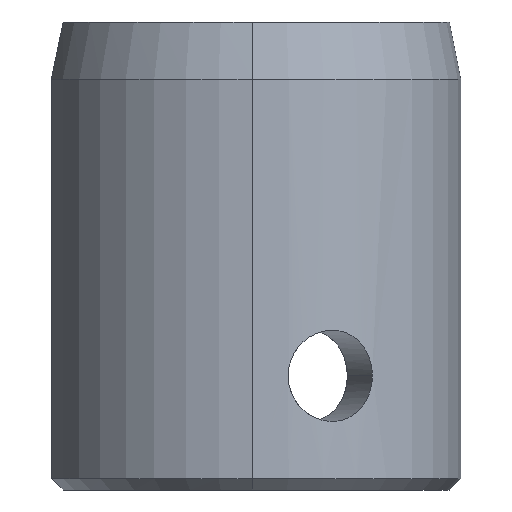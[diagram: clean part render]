
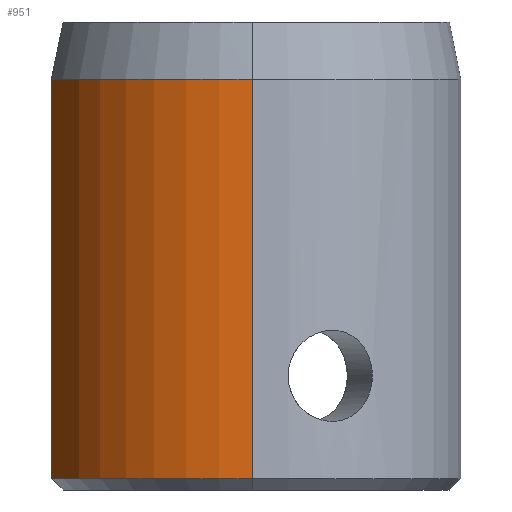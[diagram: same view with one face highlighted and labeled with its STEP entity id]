
A CAD part, left-side view. The second image highlights one B-rep face of the part: STEP entity #951.
In plain terms, the highlighted cylindrical face has radius 18.255 mm (diameter 36.51 mm), a partial arc.
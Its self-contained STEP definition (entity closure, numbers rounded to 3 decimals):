
#43 = CARTESIAN_POINT ( 'NONE',  ( 0., 0., -19.5 ) ) ;
#51 = EDGE_CURVE ( 'NONE', #225, #891, #468, .T. ) ;
#66 = DIRECTION ( 'NONE',  ( 0., 0., -1. ) ) ;
#132 = AXIS2_PLACEMENT_3D ( 'NONE', #43, #572, #490 ) ;
#139 = CYLINDRICAL_SURFACE ( 'NONE', #224, 18.255 ) ;
#141 = VECTOR ( 'NONE', #966, 1000. ) ;
#149 = VERTEX_POINT ( 'NONE', #179 ) ;
#179 = CARTESIAN_POINT ( 'NONE',  ( -4.763, 17.623, -19.5 ) ) ;
#198 = FACE_OUTER_BOUND ( 'NONE', #878, .T. ) ;
#224 = AXIS2_PLACEMENT_3D ( 'NONE', #1053, #289, #369 ) ;
#225 = VERTEX_POINT ( 'NONE', #478 ) ;
#229 = EDGE_CURVE ( 'NONE', #891, #149, #382, .T. ) ;
#289 = DIRECTION ( 'NONE',  ( 0., 0., -1. ) ) ;
#307 = CARTESIAN_POINT ( 'NONE',  ( -4.763, 17.623, 15.5 ) ) ;
#369 = DIRECTION ( 'NONE',  ( -1., 0., 0. ) ) ;
#382 = LINE ( 'NONE', #530, #141 ) ;
#424 = ORIENTED_EDGE ( 'NONE', *, *, #51, .T. ) ;
#468 = CIRCLE ( 'NONE', #995, 18.255 ) ;
#478 = CARTESIAN_POINT ( 'NONE',  ( -18.255, 0., 15.5 ) ) ;
#490 = DIRECTION ( 'NONE',  ( 1., 0., 0. ) ) ;
#530 = CARTESIAN_POINT ( 'NONE',  ( -4.763, 17.623, 20.5 ) ) ;
#545 = EDGE_CURVE ( 'NONE', #149, #1004, #1076, .T. ) ;
#572 = DIRECTION ( 'NONE',  ( 0., 0., 1. ) ) ;
#574 = LINE ( 'NONE', #649, #777 ) ;
#597 = DIRECTION ( 'NONE',  ( 1., 0., 0. ) ) ;
#607 = EDGE_CURVE ( 'NONE', #225, #1004, #574, .T. ) ;
#649 = CARTESIAN_POINT ( 'NONE',  ( -18.255, 0., 20.5 ) ) ;
#683 = CARTESIAN_POINT ( 'NONE',  ( 0., 0., 15.5 ) ) ;
#715 = ORIENTED_EDGE ( 'NONE', *, *, #607, .F. ) ;
#742 = ORIENTED_EDGE ( 'NONE', *, *, #545, .T. ) ;
#777 = VECTOR ( 'NONE', #909, 1000. ) ;
#864 = ORIENTED_EDGE ( 'NONE', *, *, #229, .T. ) ;
#878 = EDGE_LOOP ( 'NONE', ( #715, #424, #864, #742 ) ) ;
#886 = CARTESIAN_POINT ( 'NONE',  ( -18.255, 0., -19.5 ) ) ;
#891 = VERTEX_POINT ( 'NONE', #307 ) ;
#909 = DIRECTION ( 'NONE',  ( 0., 0., -1. ) ) ;
#951 = ADVANCED_FACE ( 'NONE', ( #198 ), #139, .T. ) ;
#966 = DIRECTION ( 'NONE',  ( 0., 0., -1. ) ) ;
#995 = AXIS2_PLACEMENT_3D ( 'NONE', #683, #66, #597 ) ;
#1004 = VERTEX_POINT ( 'NONE', #886 ) ;
#1053 = CARTESIAN_POINT ( 'NONE',  ( 0., 0., 20.5 ) ) ;
#1076 = CIRCLE ( 'NONE', #132, 18.255 ) ;
